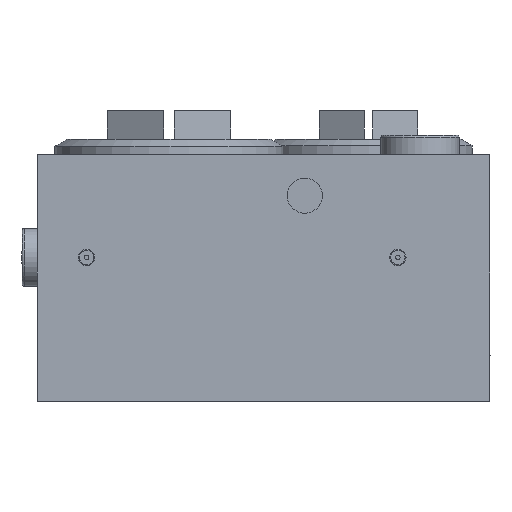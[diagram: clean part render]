
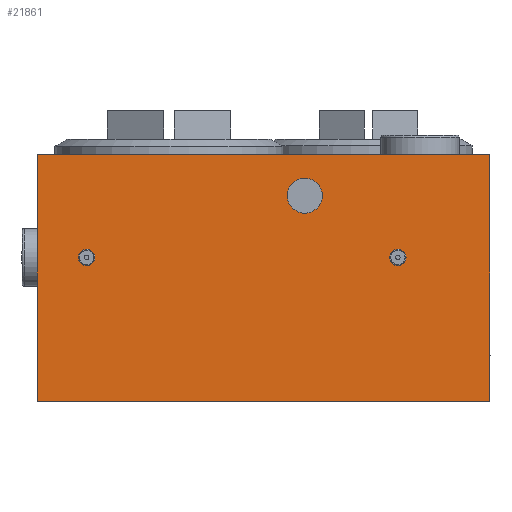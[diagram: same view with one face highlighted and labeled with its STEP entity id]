
A CAD part, left-side view. The second image highlights one B-rep face of the part: STEP entity #21861.
In plain terms, the highlighted planar face has unit normal (-1, 0, 0).
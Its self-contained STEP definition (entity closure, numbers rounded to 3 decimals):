
#122 = AXIS2_PLACEMENT_3D ( 'NONE', #19457, #21630, #8918 ) ;
#264 = FACE_OUTER_BOUND ( 'NONE', #7642, .T. ) ;
#270 = VERTEX_POINT ( 'NONE', #2823 ) ;
#318 = EDGE_CURVE ( 'NONE', #9755, #14339, #509, .T. ) ;
#462 = CARTESIAN_POINT ( 'NONE',  ( 0., -12., 37. ) ) ;
#509 = LINE ( 'NONE', #3828, #17706 ) ;
#744 = CARTESIAN_POINT ( 'NONE',  ( 0., -87.6, 37. ) ) ;
#790 = LINE ( 'NONE', #13067, #2592 ) ;
#861 = CIRCLE ( 'NONE', #122, 2. ) ;
#1162 = AXIS2_PLACEMENT_3D ( 'NONE', #10507, #13601, #1764 ) ;
#1764 = DIRECTION ( 'NONE',  ( 0., 0., 1. ) ) ;
#2592 = VECTOR ( 'NONE', #20053, 1000. ) ;
#2776 = ORIENTED_EDGE ( 'NONE', *, *, #17066, .F. ) ;
#2823 = CARTESIAN_POINT ( 'NONE',  ( 0., -110., 60. ) ) ;
#3345 = FACE_BOUND ( 'NONE', #15602, .T. ) ;
#3464 = DIRECTION ( 'NONE',  ( 1., 0., 0. ) ) ;
#3828 = CARTESIAN_POINT ( 'NONE',  ( 0., 0., 0. ) ) ;
#4853 = CARTESIAN_POINT ( 'NONE',  ( 0., -65., 54.25 ) ) ;
#5096 = AXIS2_PLACEMENT_3D ( 'NONE', #9744, #6191, #13287 ) ;
#5849 = VERTEX_POINT ( 'NONE', #462 ) ;
#6062 = CARTESIAN_POINT ( 'NONE',  ( 0., -110., 60. ) ) ;
#6191 = DIRECTION ( 'NONE',  ( -1., 0., 0. ) ) ;
#7186 = VECTOR ( 'NONE', #16123, 1000. ) ;
#7408 = ORIENTED_EDGE ( 'NONE', *, *, #10233, .F. ) ;
#7642 = EDGE_LOOP ( 'NONE', ( #10230, #2776, #7408, #13831 ) ) ;
#7684 = CIRCLE ( 'NONE', #5096, 2. ) ;
#8746 = DIRECTION ( 'NONE',  ( 0., 1., 0. ) ) ;
#8918 = DIRECTION ( 'NONE',  ( 0., 0., 1. ) ) ;
#9388 = LINE ( 'NONE', #6062, #15383 ) ;
#9648 = AXIS2_PLACEMENT_3D ( 'NONE', #10684, #3464, #8746 ) ;
#9744 = CARTESIAN_POINT ( 'NONE',  ( 0., -87.6, 35. ) ) ;
#9755 = VERTEX_POINT ( 'NONE', #20971 ) ;
#10230 = ORIENTED_EDGE ( 'NONE', *, *, #318, .T. ) ;
#10233 = EDGE_CURVE ( 'NONE', #12365, #270, #16012, .T. ) ;
#10507 = CARTESIAN_POINT ( 'NONE',  ( 0., -65., 50. ) ) ;
#10684 = CARTESIAN_POINT ( 'NONE',  ( 0., 0., 60. ) ) ;
#10831 = ORIENTED_EDGE ( 'NONE', *, *, #21717, .F. ) ;
#11223 = ORIENTED_EDGE ( 'NONE', *, *, #15803, .F. ) ;
#11484 = EDGE_LOOP ( 'NONE', ( #10831 ) ) ;
#12365 = VERTEX_POINT ( 'NONE', #16574 ) ;
#12881 = DIRECTION ( 'NONE',  ( 0., -1., 0. ) ) ;
#13067 = CARTESIAN_POINT ( 'NONE',  ( 0., 0., 60. ) ) ;
#13287 = DIRECTION ( 'NONE',  ( 0., 0., 1. ) ) ;
#13601 = DIRECTION ( 'NONE',  ( -1., 0., 0. ) ) ;
#13831 = ORIENTED_EDGE ( 'NONE', *, *, #18469, .T. ) ;
#14276 = ORIENTED_EDGE ( 'NONE', *, *, #19880, .F. ) ;
#14339 = VERTEX_POINT ( 'NONE', #21305 ) ;
#14358 = PLANE ( 'NONE',  #9648 ) ;
#15383 = VECTOR ( 'NONE', #16385, 1000. ) ;
#15602 = EDGE_LOOP ( 'NONE', ( #14276 ) ) ;
#15619 = FACE_BOUND ( 'NONE', #19873, .T. ) ;
#15803 = EDGE_CURVE ( 'NONE', #22177, #22177, #7684, .T. ) ;
#16012 = LINE ( 'NONE', #17743, #7186 ) ;
#16123 = DIRECTION ( 'NONE',  ( 0., -1., 0. ) ) ;
#16385 = DIRECTION ( 'NONE',  ( 0., 0., -1. ) ) ;
#16574 = CARTESIAN_POINT ( 'NONE',  ( 0., 0., 60. ) ) ;
#17066 = EDGE_CURVE ( 'NONE', #270, #14339, #9388, .T. ) ;
#17351 = FACE_BOUND ( 'NONE', #11484, .T. ) ;
#17706 = VECTOR ( 'NONE', #12881, 1000. ) ;
#17743 = CARTESIAN_POINT ( 'NONE',  ( 0., 0., 60. ) ) ;
#18469 = EDGE_CURVE ( 'NONE', #12365, #9755, #790, .T. ) ;
#19457 = CARTESIAN_POINT ( 'NONE',  ( 0., -12., 35. ) ) ;
#19873 = EDGE_LOOP ( 'NONE', ( #11223 ) ) ;
#19880 = EDGE_CURVE ( 'NONE', #20555, #20555, #20937, .T. ) ;
#20053 = DIRECTION ( 'NONE',  ( 0., 0., -1. ) ) ;
#20555 = VERTEX_POINT ( 'NONE', #4853 ) ;
#20937 = CIRCLE ( 'NONE', #1162, 4.25 ) ;
#20971 = CARTESIAN_POINT ( 'NONE',  ( 0., 0., 0. ) ) ;
#21305 = CARTESIAN_POINT ( 'NONE',  ( 0., -110., 0. ) ) ;
#21630 = DIRECTION ( 'NONE',  ( -1., 0., 0. ) ) ;
#21717 = EDGE_CURVE ( 'NONE', #5849, #5849, #861, .T. ) ;
#21861 = ADVANCED_FACE ( 'NONE', ( #3345, #17351, #15619, #264 ), #14358, .F. ) ;
#22177 = VERTEX_POINT ( 'NONE', #744 ) ;
